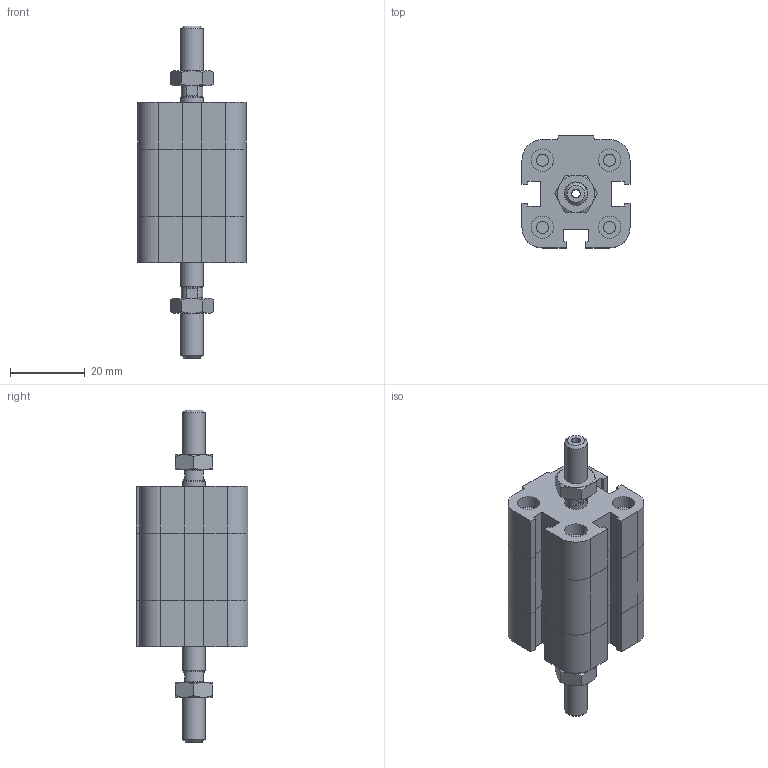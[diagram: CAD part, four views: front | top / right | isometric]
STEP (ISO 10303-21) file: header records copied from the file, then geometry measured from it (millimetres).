
FILE_DESCRIPTION((''),'2;1');
FILE_NAME('I:\Area Tecnica\Disegni\VARIE-3D\Componenti\EUROPE\15##_###_####_05_#\1581_12_0005_05_1.iam.stp','2009-04-20T14:58:54',(''),(''),'Autodesk Inventor 2009','Autodesk Inventor 2009','');
FILE_SCHEMA(('AUTOMOTIVE_DESIGN { 1 0 10303 214 1 1 1 1 }'));
Length unit declared in the file: millimetre
Products named in the file (4): 1581_12_0005_05_1; 1581_12_0005_03_1_C; 1561_12_0005_05_1_S; DBM6
Assembly tree (4 placements, depth 2):
  1581_12_0005_05_1
    1581_12_0005_03_1_C
    1561_12_0005_05_1_S
    DBM6  x2
Bounding box: 29 x 30 x 89 mm (x, y, z)
Volume: 30843.8 mm3; surface area: 13490 mm2
Topology: 4 solids, 4 shells, 225 faces, 494 edges, 295 vertices
Faces by surface type: plane 131, cone 35, bspline 34, cylinder 25
Full cylindrical faces by diameter (mm): 3.242 x4, 5 x1, 5.8 x2, 6 x6
Entity records: 5550 total; most frequent: CARTESIAN_POINT 1254, DIRECTION 818, ORIENTED_EDGE 788, EDGE_CURVE 394, AXIS2_PLACEMENT_3D 278, EDGE_LOOP 262, VECTOR 262, LINE 262
